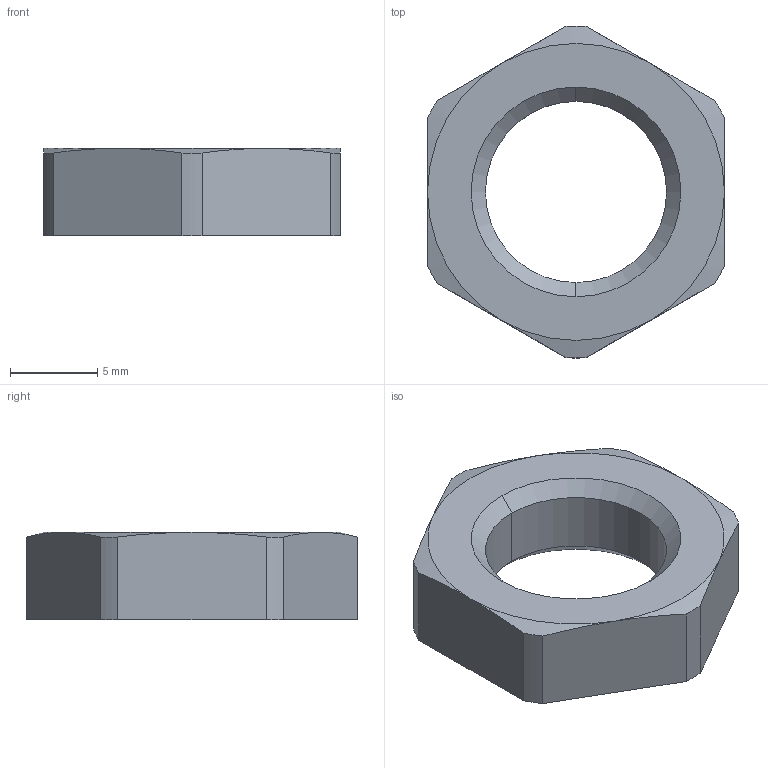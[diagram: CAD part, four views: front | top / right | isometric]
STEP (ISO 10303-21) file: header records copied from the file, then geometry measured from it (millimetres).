
FILE_DESCRIPTION (( 'STEP AP203' ), '1' );
FILE_NAME ('50.212 PA7001.STEP', '2005-10-05T12:16:54', ( ' ' ), ( '' ), 'SwSTEP 2.0', 'SolidWorks 2005143', '' );
FILE_SCHEMA (( 'CONFIG_CONTROL_DESIGN' ));
Length unit declared in the file: millimetre
Products named in the file (1): 50.212 PA7001
Bounding box: 17 x 19 x 5 mm (x, y, z)
Volume: 798 mm3; surface area: 749.6 mm2
Topology: 1 solids, 1 shells, 63 faces, 164 edges, 106 vertices
Faces by surface type: plane 45, cone 10, cylinder 8
Entity records: 2001 total; most frequent: CARTESIAN_POINT 374, ORIENTED_EDGE 328, DIRECTION 306, EDGE_CURVE 164, VECTOR 126, LINE 126, VERTEX_POINT 106, AXIS2_PLACEMENT_3D 90
